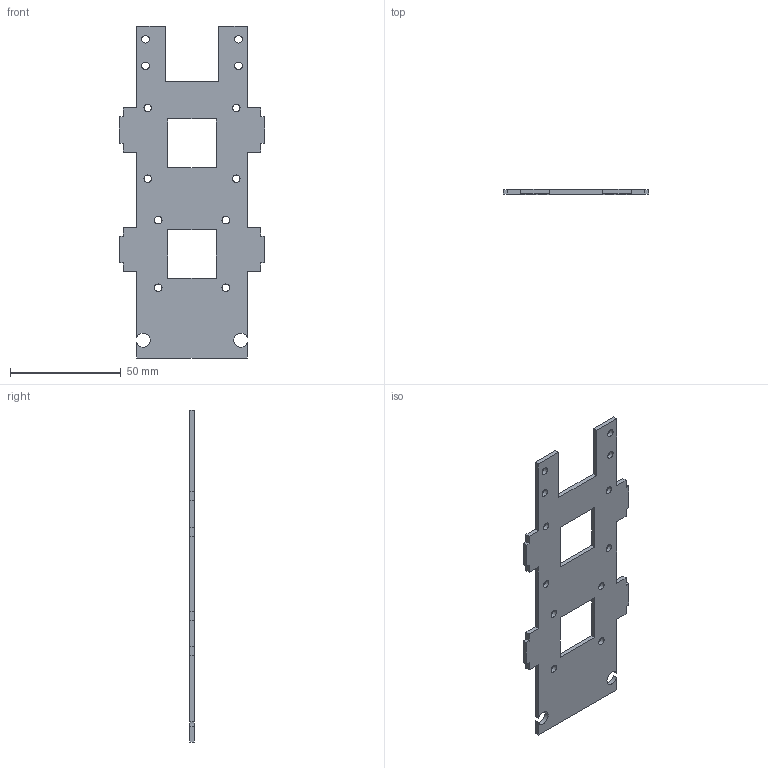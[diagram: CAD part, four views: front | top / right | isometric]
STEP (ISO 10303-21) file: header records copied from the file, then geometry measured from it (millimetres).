
FILE_DESCRIPTION(('Open CASCADE Model'),'2;1');
FILE_NAME('Open CASCADE Shape Model','2026-09-13T11:11:46',('Author'),( 'Open CASCADE'),'Open CASCADE STEP processor 7.9','Open CASCADE 7.9' ,'Unknown');
FILE_SCHEMA(('AUTOMOTIVE_DESIGN { 1 0 10303 214 1 1 1 1 }'));
Length unit declared in the file: millimetre
Products named in the file (1): Open CASCADE STEP translator 7.9 4
Bounding box: 65.6 x 2 x 150 mm (x, y, z)
Volume: 12651.4 mm3; surface area: 14347 mm2
Topology: 1 solids, 1 shells, 66 faces, 192 edges, 128 vertices
Faces by surface type: plane 52, cylinder 14
Full cylindrical faces by diameter (mm): 3.4 x12
Entity records: 4658 total; most frequent: CARTESIAN_POINT 839, DIRECTION 670, LINE 452, VECTOR 452, ORIENTED_EDGE 384, PCURVE 384, DEFINITIONAL_REPRESENTATION 384, EDGE_CURVE 192
